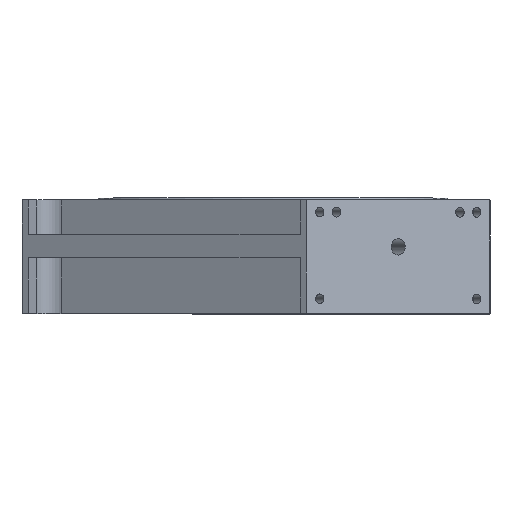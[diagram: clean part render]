
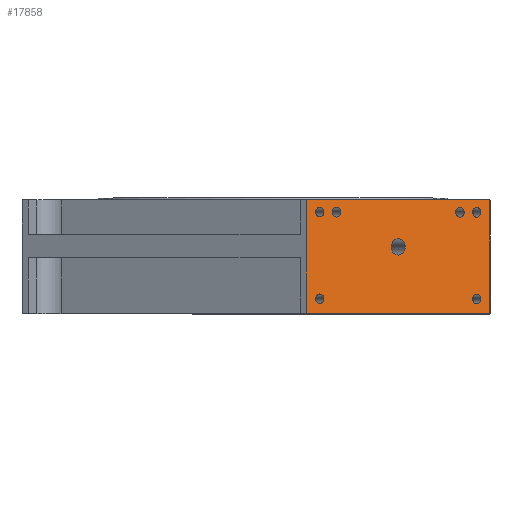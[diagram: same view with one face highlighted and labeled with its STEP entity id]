
A CAD part, top view. The second image highlights one B-rep face of the part: STEP entity #17858.
In plain terms, the highlighted planar face has unit normal (0.5, 0, 0.866).
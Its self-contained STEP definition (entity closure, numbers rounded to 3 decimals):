
#1193 = EDGE_CURVE ( 'NONE', #18195, #4758, #12514, .T. ) ;
#1580 = EDGE_LOOP ( 'NONE', ( #14770, #21342, #16666, #17348 ) ) ;
#2849 = EDGE_LOOP ( 'NONE', ( #17547 ) ) ;
#3085 = AXIS2_PLACEMENT_3D ( 'NONE', #17917, #17911, #17887 ) ;
#4106 = CARTESIAN_POINT ( 'NONE',  ( 112.726, 0., 85.248 ) ) ;
#4150 = CARTESIAN_POINT ( 'NONE',  ( 26.557, 7.5, 134.998 ) ) ;
#4179 = VERTEX_POINT ( 'NONE', #4150 ) ;
#4565 = CARTESIAN_POINT ( 'NONE',  ( 68.776, 34.5, 110.623 ) ) ;
#4587 = VERTEX_POINT ( 'NONE', #4565 ) ;
#4758 = VERTEX_POINT ( 'NONE', #24422 ) ;
#5449 = CARTESIAN_POINT ( 'NONE',  ( 112.726, 59., 85.248 ) ) ;
#5538 = EDGE_LOOP ( 'NONE', ( #17259 ) ) ;
#5539 = CARTESIAN_POINT ( 'NONE',  ( 99.33, 52.5, 92.982 ) ) ;
#5569 = VERTEX_POINT ( 'NONE', #5539 ) ;
#5739 = CIRCLE ( 'NONE', #23765, 2.5 ) ;
#5814 = CARTESIAN_POINT ( 'NONE',  ( 107.963, 52.5, 87.998 ) ) ;
#5818 = VERTEX_POINT ( 'NONE', #5814 ) ;
#5852 = CARTESIAN_POINT ( 'NONE',  ( 107.963, 7.5, 87.998 ) ) ;
#5855 = VERTEX_POINT ( 'NONE', #5852 ) ;
#5919 = CIRCLE ( 'NONE', #23949, 4.25 ) ;
#6414 = CARTESIAN_POINT ( 'NONE',  ( 17.464, 59., 140.248 ) ) ;
#6881 = DIRECTION ( 'NONE',  ( 0.866, 0., -0.5 ) ) ;
#6883 = CARTESIAN_POINT ( 'NONE',  ( 17.464, 59., 140.248 ) ) ;
#6890 = CIRCLE ( 'NONE', #24890, 2.5 ) ;
#6918 = LINE ( 'NONE', #6883, #13283 ) ;
#7266 = AXIS2_PLACEMENT_3D ( 'NONE', #24553, #24548, #24511 ) ;
#7554 = CARTESIAN_POINT ( 'NONE',  ( 26.557, 52.5, 134.998 ) ) ;
#7595 = VERTEX_POINT ( 'NONE', #7554 ) ;
#7823 = CARTESIAN_POINT ( 'NONE',  ( 35.244, 52.5, 129.982 ) ) ;
#7857 = VERTEX_POINT ( 'NONE', #7823 ) ;
#8331 = EDGE_LOOP ( 'NONE', ( #14766 ) ) ;
#8694 = EDGE_CURVE ( 'NONE', #7857, #7857, #17255, .T. ) ;
#9190 = DIRECTION ( 'NONE',  ( 0.866, 0., -0.5 ) ) ;
#9194 = DIRECTION ( 'NONE',  ( 0.5, 0., 0.866 ) ) ;
#9272 = CARTESIAN_POINT ( 'NONE',  ( 24.392, 52.5, 136.248 ) ) ;
#9461 = EDGE_CURVE ( 'NONE', #7595, #7595, #5739, .T. ) ;
#9714 = DIRECTION ( 'NONE',  ( 0.866, 0., -0.5 ) ) ;
#9727 = DIRECTION ( 'NONE',  ( 0.5, 0., 0.866 ) ) ;
#9752 = CARTESIAN_POINT ( 'NONE',  ( 97.138, 52.5, 94.248 ) ) ;
#9876 = VECTOR ( 'NONE', #23318, 1000. ) ;
#10148 = DIRECTION ( 'NONE',  ( 0.866, 0., -0.5 ) ) ;
#10170 = CARTESIAN_POINT ( 'NONE',  ( 17.464, 0., 140.248 ) ) ;
#10194 = LINE ( 'NONE', #10170, #10270 ) ;
#10270 = VECTOR ( 'NONE', #10148, 1000. ) ;
#11579 = DIRECTION ( 'NONE',  ( -0.866, 0., 0.5 ) ) ;
#11590 = AXIS2_PLACEMENT_3D ( 'NONE', #9752, #9727, #9714 ) ;
#11591 = DIRECTION ( 'NONE',  ( -0.5, 0., -0.866 ) ) ;
#11617 = CARTESIAN_POINT ( 'NONE',  ( 17.464, 59., 140.248 ) ) ;
#11627 = PLANE ( 'NONE',  #24297 ) ;
#11632 = FACE_OUTER_BOUND ( 'NONE', #1580, .T. ) ;
#11670 = FACE_BOUND ( 'NONE', #2849, .T. ) ;
#11674 = FACE_BOUND ( 'NONE', #30729, .T. ) ;
#11698 = FACE_BOUND ( 'NONE', #31072, .T. ) ;
#11706 = FACE_BOUND ( 'NONE', #8331, .T. ) ;
#11710 = FACE_BOUND ( 'NONE', #15881, .T. ) ;
#11744 = FACE_BOUND ( 'NONE', #5538, .T. ) ;
#11757 = FACE_BOUND ( 'NONE', #27598, .T. ) ;
#12514 = LINE ( 'NONE', #20217, #9876 ) ;
#13283 = VECTOR ( 'NONE', #6881, 1000. ) ;
#13941 = DIRECTION ( 'NONE',  ( 0.866, 0., -0.5 ) ) ;
#13945 = DIRECTION ( 'NONE',  ( 0.5, 0., 0.866 ) ) ;
#13983 = CARTESIAN_POINT ( 'NONE',  ( 24.392, 7.5, 136.248 ) ) ;
#14766 = ORIENTED_EDGE ( 'NONE', *, *, #16540, .F. ) ;
#14770 = ORIENTED_EDGE ( 'NONE', *, *, #26200, .T. ) ;
#15881 = EDGE_LOOP ( 'NONE', ( #17679 ) ) ;
#16540 = EDGE_CURVE ( 'NONE', #5855, #5855, #21323, .T. ) ;
#16556 = ORIENTED_EDGE ( 'NONE', *, *, #21827, .F. ) ;
#16666 = ORIENTED_EDGE ( 'NONE', *, *, #23634, .F. ) ;
#17016 = EDGE_CURVE ( 'NONE', #5818, #5818, #31251, .T. ) ;
#17255 = CIRCLE ( 'NONE', #3085, 2.531 ) ;
#17259 = ORIENTED_EDGE ( 'NONE', *, *, #18030, .F. ) ;
#17342 = ORIENTED_EDGE ( 'NONE', *, *, #17016, .F. ) ;
#17348 = ORIENTED_EDGE ( 'NONE', *, *, #1193, .T. ) ;
#17547 = ORIENTED_EDGE ( 'NONE', *, *, #22886, .F. ) ;
#17555 = ORIENTED_EDGE ( 'NONE', *, *, #9461, .F. ) ;
#17679 = ORIENTED_EDGE ( 'NONE', *, *, #8694, .F. ) ;
#17819 = AXIS2_PLACEMENT_3D ( 'NONE', #20352, #20348, #20314 ) ;
#17858 = ADVANCED_FACE ( 'NONE', ( #11757, #11744, #11710, #11706, #11698, #11674, #11670, #11632 ), #11627, .F. ) ;
#17887 = DIRECTION ( 'NONE',  ( 0.866, 0., -0.5 ) ) ;
#17911 = DIRECTION ( 'NONE',  ( 0.5, 0., 0.866 ) ) ;
#17917 = CARTESIAN_POINT ( 'NONE',  ( 33.052, 52.5, 131.248 ) ) ;
#18030 = EDGE_CURVE ( 'NONE', #5569, #5569, #25299, .T. ) ;
#18195 = VERTEX_POINT ( 'NONE', #6414 ) ;
#18401 = VERTEX_POINT ( 'NONE', #4106 ) ;
#20087 = VERTEX_POINT ( 'NONE', #5449 ) ;
#20217 = CARTESIAN_POINT ( 'NONE',  ( 17.464, 59., 140.248 ) ) ;
#20314 = DIRECTION ( 'NONE',  ( 0.866, 0., -0.5 ) ) ;
#20348 = DIRECTION ( 'NONE',  ( 0.5, 0., 0.866 ) ) ;
#20352 = CARTESIAN_POINT ( 'NONE',  ( 105.798, 52.5, 89.248 ) ) ;
#21323 = CIRCLE ( 'NONE', #7266, 2.5 ) ;
#21342 = ORIENTED_EDGE ( 'NONE', *, *, #29954, .F. ) ;
#21827 = EDGE_CURVE ( 'NONE', #4587, #4587, #5919, .T. ) ;
#22886 = EDGE_CURVE ( 'NONE', #4179, #4179, #6890, .T. ) ;
#23318 = DIRECTION ( 'NONE',  ( 0., -1., 0. ) ) ;
#23634 = EDGE_CURVE ( 'NONE', #18195, #20087, #6918, .T. ) ;
#23765 = AXIS2_PLACEMENT_3D ( 'NONE', #9272, #9194, #9190 ) ;
#23949 = AXIS2_PLACEMENT_3D ( 'NONE', #28131, #28100, #28095 ) ;
#24297 = AXIS2_PLACEMENT_3D ( 'NONE', #11617, #11591, #11579 ) ;
#24422 = CARTESIAN_POINT ( 'NONE',  ( 17.464, 0., 140.248 ) ) ;
#24511 = DIRECTION ( 'NONE',  ( 0.866, 0., -0.5 ) ) ;
#24548 = DIRECTION ( 'NONE',  ( 0.5, 0., 0.866 ) ) ;
#24553 = CARTESIAN_POINT ( 'NONE',  ( 105.798, 7.5, 89.248 ) ) ;
#24890 = AXIS2_PLACEMENT_3D ( 'NONE', #13983, #13945, #13941 ) ;
#25299 = CIRCLE ( 'NONE', #11590, 2.531 ) ;
#26200 = EDGE_CURVE ( 'NONE', #4758, #18401, #10194, .T. ) ;
#27063 = VECTOR ( 'NONE', #29451, 1000. ) ;
#27598 = EDGE_LOOP ( 'NONE', ( #16556 ) ) ;
#28095 = DIRECTION ( 'NONE',  ( 0.866, 0., -0.5 ) ) ;
#28100 = DIRECTION ( 'NONE',  ( 0.5, 0., 0.866 ) ) ;
#28131 = CARTESIAN_POINT ( 'NONE',  ( 65.095, 34.5, 112.748 ) ) ;
#29451 = DIRECTION ( 'NONE',  ( 0., -1., 0. ) ) ;
#29463 = CARTESIAN_POINT ( 'NONE',  ( 112.726, 59., 85.248 ) ) ;
#29500 = LINE ( 'NONE', #29463, #27063 ) ;
#29954 = EDGE_CURVE ( 'NONE', #20087, #18401, #29500, .T. ) ;
#30729 = EDGE_LOOP ( 'NONE', ( #17555 ) ) ;
#31072 = EDGE_LOOP ( 'NONE', ( #17342 ) ) ;
#31251 = CIRCLE ( 'NONE', #17819, 2.5 ) ;
